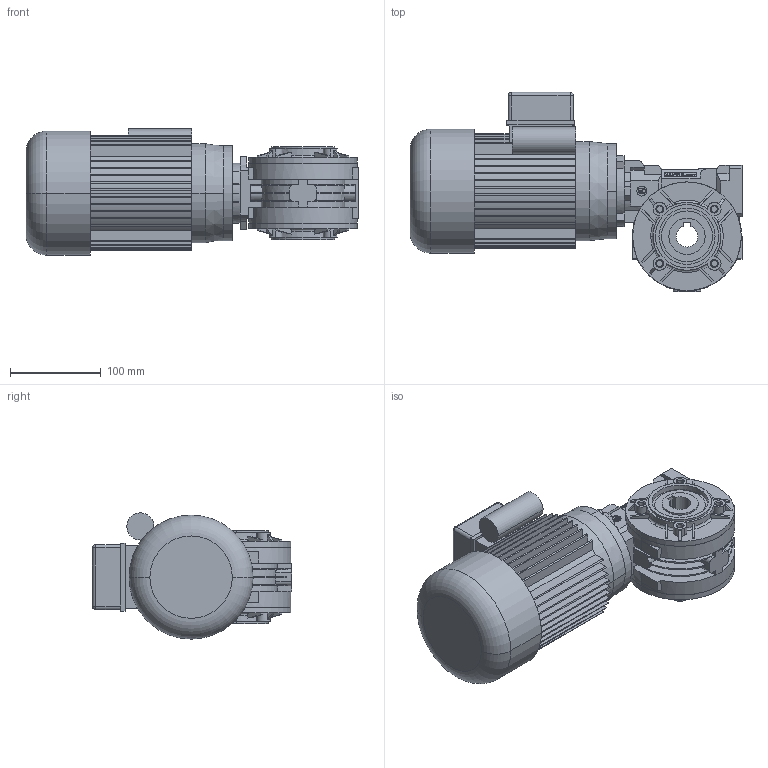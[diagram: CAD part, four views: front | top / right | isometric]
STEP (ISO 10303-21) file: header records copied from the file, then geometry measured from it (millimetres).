
FILE_DESCRIPTION (( 'STEP AP214' ), '1' );
FILE_NAME ('M71B14+RS50.STEP', '2020-04-22T08:26:58', ( '' ), ( '' ), 'SwSTEP 2.0', 'SolidWorks 2018', '' );
FILE_SCHEMA (( 'AUTOMOTIVE_DESIGN' ));
Length unit declared in the file: millimetre
Products named in the file (3): M71B14; M71B14+RS50; RS50-71
Assembly tree (2 placements, depth 2):
  M71B14+RS50
    RS50-71
    M71B14
Bounding box: 366.75 x 220 x 139.5 mm (x, y, z)
Volume: 3748768.2 mm3; surface area: 380696.2 mm2
Topology: 3 solids, 4 shells, 978 faces, 2640 edges, 1734 vertices
Faces by surface type: plane 619, cylinder 293, cone 34, torus 28, sphere 4
Entity records: 33267 total; most frequent: CARTESIAN_POINT 7773, ORIENTED_EDGE 5272, DIRECTION 5178, EDGE_CURVE 2636, VECTOR 1792, LINE 1792, VERTEX_POINT 1734, AXIS2_PLACEMENT_3D 1693
